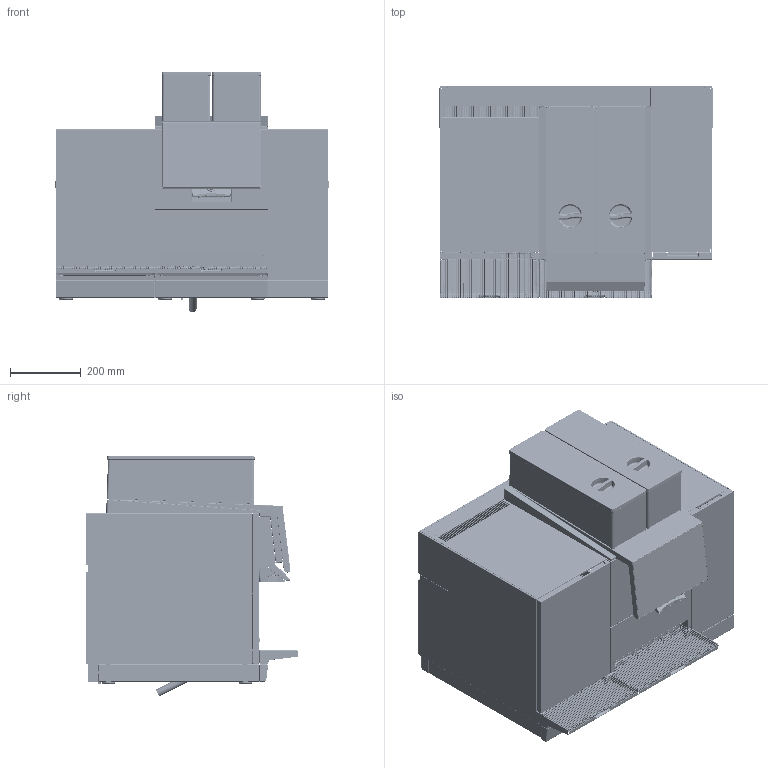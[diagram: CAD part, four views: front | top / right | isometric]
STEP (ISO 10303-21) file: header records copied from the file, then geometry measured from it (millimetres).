
FILE_DESCRIPTION(/* description */ ('Unknown'),/* implementation_level */ '2;1');
FILE_NAME(/* name */ 'BW4_CTM_F_RL_134135',/* time_stamp */ '2019-08-30T16:00:52+02:00',/* author */ ('Unknown'),/* organization */ ('Unknown'),/* preprocessor_version */ 'ST-DEVELOPER v16.7',/* originating_system */ 'DEX',/* authorisation */ $);
FILE_SCHEMA (('AUTOMOTIVE_DESIGN {1 0 10303 214 3 1 1}'));
Products named in the file (1): BW4_CTM_F_RL_134135
Bounding box: 771.32 x 599.88 x 679.49 mm (x, y, z)
Surface area: 5310157.9 mm2
Topology: 1 solids, 801 shells, 3709 faces, 24718 edges, 21053 vertices
Faces by surface type: plane 1579, cylinder 1297, torus 369, bspline 253, cone 173, sphere 38
Full cylindrical faces by diameter (mm): 2 x5, 2.5 x296, 3.2 x7, 4 x8, 4.2 x6, 4.8 x1, 5.2 x12, 6 x1, 13 x1, 14 x1, 14.5 x1, 16 x2, 16.02 x1, 16.9 x1, 17.2 x2, 21.2 x1, 21.7 x1, 22.65 x1, 23.15 x1, 24 x2, 29.5 x1, 30 x8
Entity records: 256148 total; most frequent: CARTESIAN_POINT 80242, DIRECTION 33263, ORIENTED_EDGE 27203, EDGE_CURVE 23130, VERTEX_POINT 20450, LINE 12469, VECTOR 12469, AXIS2_PLACEMENT_3D 10397
